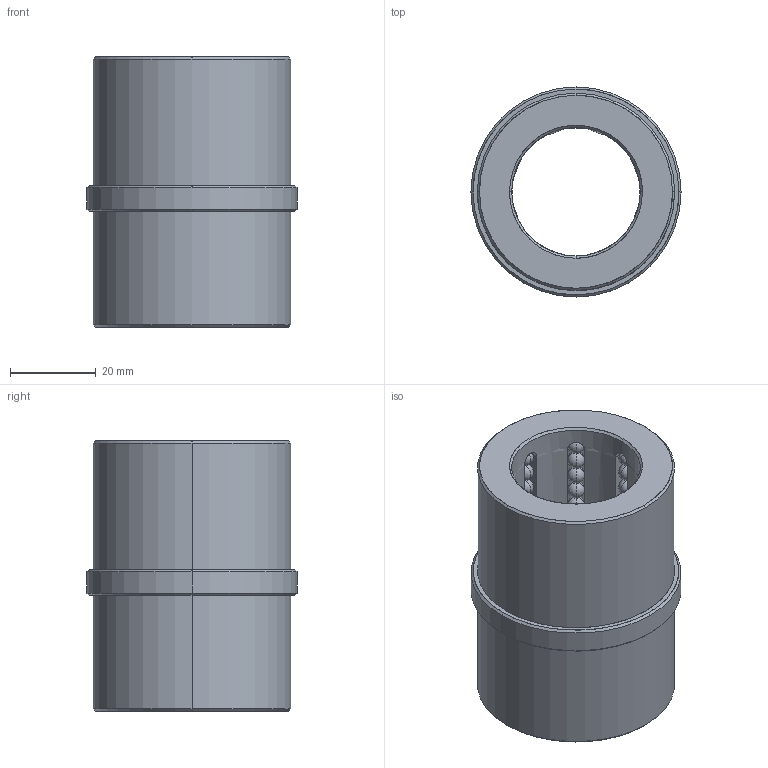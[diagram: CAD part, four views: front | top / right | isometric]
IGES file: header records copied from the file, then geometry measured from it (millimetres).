
Start section: START RECORD GO HERE.
Global section: file name: B844302736.igs; native system: DASSAULT SYSTEMES CATIA V5 R20 - www.3ds.com; preprocessor: CATIA Version 5 Release 20 ; author: Utente; organization: NB04-ASUS; date: 20200419.201015; units: millimetre
Bounding box: 49 x 49 x 63 mm (x, y, z)
Surface area: 26092.7 mm2 (no closed solid volume)
Topology: 0 solids, 0 shells, 492 faces, 2036 edges, 1204 vertices
Faces by surface type: revolution 464, plane 28
